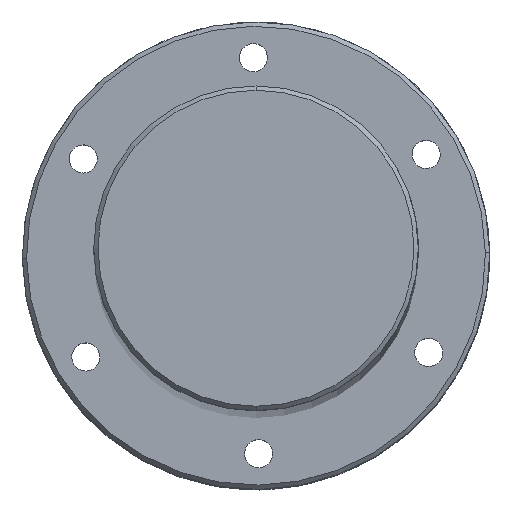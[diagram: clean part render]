
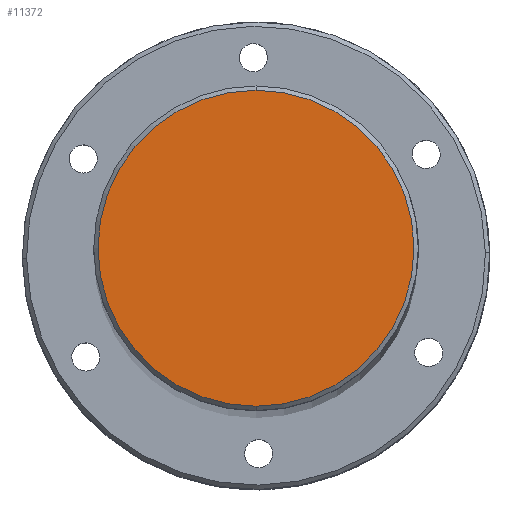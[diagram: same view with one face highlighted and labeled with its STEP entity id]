
A CAD part, top view. The second image highlights one B-rep face of the part: STEP entity #11372.
In plain terms, the highlighted planar face has unit normal (0, 0, 1) as drawn and (-1, 0, 0) by its records, which use the part's own axes.
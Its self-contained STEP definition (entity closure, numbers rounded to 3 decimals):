
#1248 = DIRECTION ( 'NONE',  ( -1., 0., 0. ) ) ;
#1346 = AXIS2_PLACEMENT_3D ( 'NONE', #14381, #16621, #12656 ) ;
#2027 = CIRCLE ( 'NONE', #14093, 36.5 ) ;
#2156 = DIRECTION ( 'NONE',  ( 1., 0., 0. ) ) ;
#2981 = ORIENTED_EDGE ( 'NONE', *, *, #15445, .T. ) ;
#3150 = CARTESIAN_POINT ( 'NONE',  ( 0., 0., 0. ) ) ;
#3223 = VERTEX_POINT ( 'NONE', #14440 ) ;
#3891 = CARTESIAN_POINT ( 'NONE',  ( 0., 0., 36.5 ) ) ;
#4565 = EDGE_LOOP ( 'NONE', ( #2981, #11597 ) ) ;
#8150 = DIRECTION ( 'NONE',  ( 0., 0., -1. ) ) ;
#8488 = EDGE_CURVE ( 'NONE', #8689, #3223, #2027, .T. ) ;
#8689 = VERTEX_POINT ( 'NONE', #3891 ) ;
#8800 = DIRECTION ( 'NONE',  ( 0., 0., -1. ) ) ;
#8872 = CIRCLE ( 'NONE', #1346, 36.5 ) ;
#11372 = ADVANCED_FACE ( 'NONE', ( #16537 ), #16787, .F. ) ;
#11597 = ORIENTED_EDGE ( 'NONE', *, *, #8488, .T. ) ;
#12656 = DIRECTION ( 'NONE',  ( 0., 0., -1. ) ) ;
#14093 = AXIS2_PLACEMENT_3D ( 'NONE', #17372, #1248, #8150 ) ;
#14381 = CARTESIAN_POINT ( 'NONE',  ( 0., 0., 0. ) ) ;
#14440 = CARTESIAN_POINT ( 'NONE',  ( 0., 0., -36.5 ) ) ;
#14869 = AXIS2_PLACEMENT_3D ( 'NONE', #3150, #2156, #8800 ) ;
#15445 = EDGE_CURVE ( 'NONE', #3223, #8689, #8872, .T. ) ;
#16537 = FACE_OUTER_BOUND ( 'NONE', #4565, .T. ) ;
#16621 = DIRECTION ( 'NONE',  ( -1., 0., 0. ) ) ;
#16787 = PLANE ( 'NONE',  #14869 ) ;
#17372 = CARTESIAN_POINT ( 'NONE',  ( 0., 0., 0. ) ) ;
